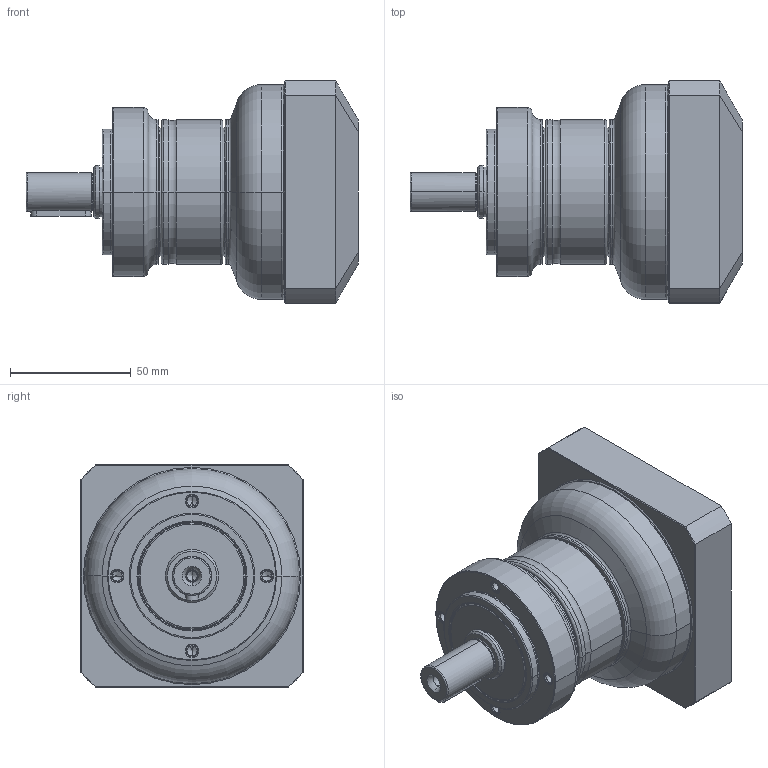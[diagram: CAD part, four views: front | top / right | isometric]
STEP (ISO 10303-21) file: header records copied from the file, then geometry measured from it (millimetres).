
FILE_DESCRIPTION((''),'2;1');
FILE_NAME('PE2-070_1ST_19-P0411400101_ASM','2016-04-21T',('d00435'),(''),'PRO/ENGINEER BY PARAMETRIC TECHNOLOGY CORPORATION, 2008410','PRO/ENGINEER BY PARAMETRIC TECHNOLOGY CORPORATION, 2008410','');
FILE_SCHEMA(('CONFIG_CONTROL_DESIGN'));
Length unit declared in the file: millimetre
Products named in the file (9): P1323210001; P0250200001; P1324200301; P0350201001; P0941203001; P0503400008; P0411400101; P1702500001; PE2-070_1ST_19-P0411400101_ASM
Assembly tree (8 placements, depth 2):
  PE2-070_1ST_19-P0411400101_ASM
    P1323210001
    P0250200001
    P1324200301
    P0350201001
    P0941203001
    P0503400008
    P0411400101
    P1702500001
Bounding box: 137.5 x 92 x 92 mm (x, y, z)
Volume: 411797.7 mm3; surface area: 109742.3 mm2
Topology: 8 solids, 22 shells, 524 faces, 1173 edges, 694 vertices
Faces by surface type: cylinder 166, cone 144, torus 102, plane 96, bspline 16
Entity records: 19428 total; most frequent: CARTESIAN_POINT 7442, DIRECTION 2759, ORIENTED_EDGE 2218, AXIS2_PLACEMENT_3D 1194, EDGE_CURVE 1137, VERTEX_POINT 694, CIRCLE 659, EDGE_LOOP 605
